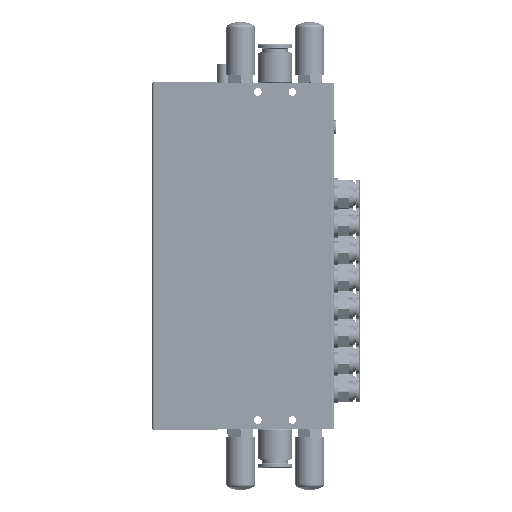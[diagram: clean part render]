
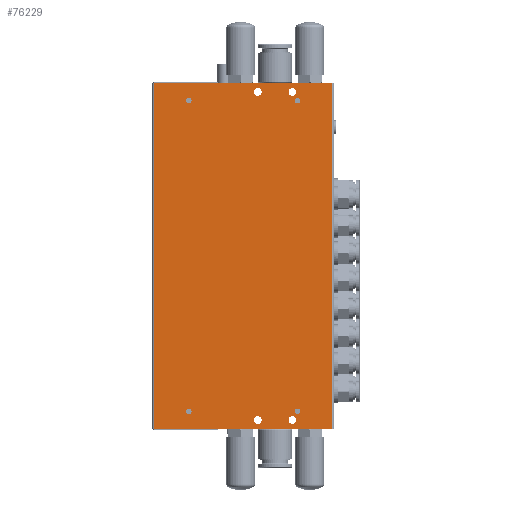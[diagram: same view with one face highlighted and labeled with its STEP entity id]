
A CAD part, front view. The second image highlights one B-rep face of the part: STEP entity #76229.
In plain terms, the highlighted planar face has unit normal (0, -1, 0).
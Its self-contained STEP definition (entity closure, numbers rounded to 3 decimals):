
#47151=LINE('',#263857,#57521);
#47158=LINE('',#263983,#57528);
#47159=LINE('',#263985,#57529);
#47160=LINE('',#263987,#57530);
#47161=LINE('',#263990,#57531);
#47162=LINE('',#263994,#57532);
#57521=VECTOR('',#206852,1.);
#57528=VECTOR('',#206889,1.);
#57529=VECTOR('',#206892,1.);
#57530=VECTOR('',#206893,1.);
#57531=VECTOR('',#206896,1.);
#57532=VECTOR('',#206899,1.);
#70061=PLANE('',#185578);
#73194=FACE_BOUND('',#92341,.T.);
#73195=FACE_BOUND('',#92342,.T.);
#73196=FACE_BOUND('',#92343,.T.);
#73197=FACE_BOUND('',#92344,.T.);
#73198=FACE_BOUND('',#92345,.T.);
#73199=FACE_BOUND('',#92346,.T.);
#73200=FACE_BOUND('',#92347,.T.);
#73201=FACE_BOUND('',#92348,.T.);
#73202=FACE_BOUND('',#92349,.T.);
#76229=ADVANCED_FACE('',(#73194,#73195,#73196,#73197,#73198,#73199,#73200,
#73201,#73202),#70061,.T.);
#92341=EDGE_LOOP('',(#115828,#115829,#115830,#115831));
#92342=EDGE_LOOP('',(#115832));
#92343=EDGE_LOOP('',(#115833));
#92344=EDGE_LOOP('',(#115834));
#92345=EDGE_LOOP('',(#115835));
#92346=EDGE_LOOP('',(#115836,#115837));
#92347=EDGE_LOOP('',(#115838,#115839));
#92348=EDGE_LOOP('',(#115840));
#92349=EDGE_LOOP('',(#115841));
#101034=CIRCLE('',#185549,1.65);
#101035=CIRCLE('',#185551,2.25);
#101037=CIRCLE('',#185554,2.25);
#101048=CIRCLE('',#185573,1.65);
#101049=CIRCLE('',#185574,1.65);
#101050=CIRCLE('',#185575,1.65);
#101051=CIRCLE('',#185576,2.25);
#101052=CIRCLE('',#185577,2.25);
#115828=ORIENTED_EDGE('',*,*,#165335,.T.);
#115829=ORIENTED_EDGE('',*,*,#165336,.T.);
#115830=ORIENTED_EDGE('',*,*,#165337,.T.);
#115831=ORIENTED_EDGE('',*,*,#165318,.F.);
#115832=ORIENTED_EDGE('',*,*,#165316,.F.);
#115833=ORIENTED_EDGE('',*,*,#165314,.F.);
#115834=ORIENTED_EDGE('',*,*,#165338,.T.);
#115835=ORIENTED_EDGE('',*,*,#165313,.T.);
#115836=ORIENTED_EDGE('',*,*,#165339,.F.);
#115837=ORIENTED_EDGE('',*,*,#165340,.F.);
#115838=ORIENTED_EDGE('',*,*,#165341,.F.);
#115839=ORIENTED_EDGE('',*,*,#165342,.F.);
#115840=ORIENTED_EDGE('',*,*,#165343,.F.);
#115841=ORIENTED_EDGE('',*,*,#165344,.F.);
#150918=VERTEX_POINT('',#263845);
#150919=VERTEX_POINT('',#263848);
#150921=VERTEX_POINT('',#263853);
#150923=VERTEX_POINT('',#263858);
#150924=VERTEX_POINT('',#263859);
#150938=VERTEX_POINT('',#263982);
#150939=VERTEX_POINT('',#263986);
#150940=VERTEX_POINT('',#263989);
#150941=VERTEX_POINT('',#263991);
#150942=VERTEX_POINT('',#263992);
#150943=VERTEX_POINT('',#263995);
#150944=VERTEX_POINT('',#263996);
#150945=VERTEX_POINT('',#263999);
#150946=VERTEX_POINT('',#264001);
#165313=EDGE_CURVE('',#150918,#150918,#101034,.T.);
#165314=EDGE_CURVE('',#150919,#150919,#101035,.T.);
#165316=EDGE_CURVE('',#150921,#150921,#101037,.T.);
#165318=EDGE_CURVE('',#150923,#150924,#47151,.T.);
#165335=EDGE_CURVE('',#150923,#150938,#47158,.T.);
#165336=EDGE_CURVE('',#150938,#150939,#47159,.T.);
#165337=EDGE_CURVE('',#150939,#150924,#47160,.T.);
#165338=EDGE_CURVE('',#150940,#150940,#101048,.T.);
#165339=EDGE_CURVE('',#150941,#150942,#47161,.T.);
#165340=EDGE_CURVE('',#150942,#150941,#101049,.T.);
#165341=EDGE_CURVE('',#150943,#150944,#47162,.T.);
#165342=EDGE_CURVE('',#150944,#150943,#101050,.T.);
#165343=EDGE_CURVE('',#150945,#150945,#101051,.T.);
#165344=EDGE_CURVE('',#150946,#150946,#101052,.T.);
#185549=AXIS2_PLACEMENT_3D('',#263844,#206836,#206837);
#185551=AXIS2_PLACEMENT_3D('',#263847,#206840,#206841);
#185554=AXIS2_PLACEMENT_3D('',#263852,#206846,#206847);
#185573=AXIS2_PLACEMENT_3D('',#263988,#206894,#206895);
#185574=AXIS2_PLACEMENT_3D('',#263993,#206897,#206898);
#185575=AXIS2_PLACEMENT_3D('',#263997,#206900,#206901);
#185576=AXIS2_PLACEMENT_3D('',#263998,#206902,#206903);
#185577=AXIS2_PLACEMENT_3D('',#264000,#206904,#206905);
#185578=AXIS2_PLACEMENT_3D('',#264002,#206906,#206907);
#206836=DIRECTION('',(0.,1.,0.));
#206837=DIRECTION('',(0.,0.,-1.));
#206840=DIRECTION('',(0.,-1.,0.));
#206841=DIRECTION('',(0.,0.,-1.));
#206846=DIRECTION('',(0.,-1.,0.));
#206847=DIRECTION('',(0.,0.,-1.));
#206852=DIRECTION('',(1.,0.,0.));
#206889=DIRECTION('',(0.,0.,-1.));
#206892=DIRECTION('',(1.,0.,0.));
#206893=DIRECTION('',(0.,0.,1.));
#206894=DIRECTION('',(0.,1.,0.));
#206895=DIRECTION('',(0.,0.,-1.));
#206896=DIRECTION('',(-1.,0.,0.));
#206897=DIRECTION('',(0.,-1.,0.));
#206898=DIRECTION('',(0.,0.,1.));
#206899=DIRECTION('',(-1.,0.,0.));
#206900=DIRECTION('',(0.,-1.,0.));
#206901=DIRECTION('',(0.,0.,1.));
#206902=DIRECTION('',(0.,-1.,0.));
#206903=DIRECTION('',(0.,0.,-1.));
#206904=DIRECTION('',(0.,-1.,0.));
#206905=DIRECTION('',(0.,0.,-1.));
#206906=DIRECTION('',(0.,-1.,0.));
#206907=DIRECTION('',(0.,0.,-1.));
#263844=CARTESIAN_POINT('',(31.5,-33.8,62.));
#263845=CARTESIAN_POINT('',(31.5,-33.8,60.35));
#263847=CARTESIAN_POINT('',(28.5,-33.8,67.));
#263848=CARTESIAN_POINT('',(28.5,-33.8,64.75));
#263852=CARTESIAN_POINT('',(8.5,-33.8,67.));
#263853=CARTESIAN_POINT('',(8.5,-33.8,64.75));
#263857=CARTESIAN_POINT('',(-52.5,-33.8,72.));
#263858=CARTESIAN_POINT('',(-51.5,-33.8,72.));
#263859=CARTESIAN_POINT('',(51.5,-33.8,72.));
#263982=CARTESIAN_POINT('',(-51.5,-33.8,-128.));
#263983=CARTESIAN_POINT('',(-51.5,-33.8,-56.));
#263985=CARTESIAN_POINT('',(-52.5,-33.8,-128.));
#263986=CARTESIAN_POINT('',(51.5,-33.8,-128.));
#263987=CARTESIAN_POINT('',(51.5,-33.8,-56.));
#263988=CARTESIAN_POINT('',(-31.5,-33.8,62.));
#263989=CARTESIAN_POINT('',(-31.5,-33.8,60.35));
#263990=CARTESIAN_POINT('',(-52.5,-33.8,-116.55));
#263991=CARTESIAN_POINT('',(32.287,-33.8,-116.55));
#263992=CARTESIAN_POINT('',(30.713,-33.8,-116.55));
#263993=CARTESIAN_POINT('',(31.5,-33.8,-118.));
#263994=CARTESIAN_POINT('',(-52.5,-33.8,-116.55));
#263995=CARTESIAN_POINT('',(-30.713,-33.8,-116.55));
#263996=CARTESIAN_POINT('',(-32.287,-33.8,-116.55));
#263997=CARTESIAN_POINT('',(-31.5,-33.8,-118.));
#263998=CARTESIAN_POINT('',(8.5,-33.8,-123.));
#263999=CARTESIAN_POINT('',(8.5,-33.8,-125.25));
#264000=CARTESIAN_POINT('',(28.5,-33.8,-123.));
#264001=CARTESIAN_POINT('',(28.5,-33.8,-125.25));
#264002=CARTESIAN_POINT('',(-52.5,-33.8,-56.));
